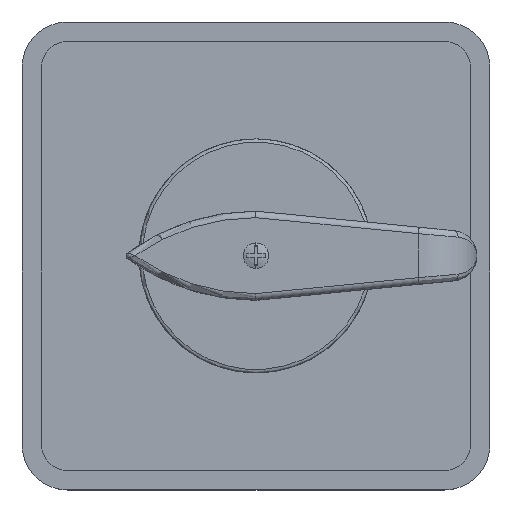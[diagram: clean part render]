
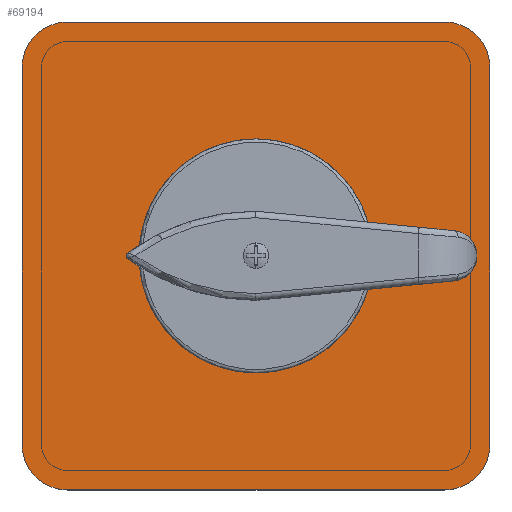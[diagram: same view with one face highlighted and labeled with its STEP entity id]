
A CAD part, top view. The second image highlights one B-rep face of the part: STEP entity #69194.
In plain terms, the highlighted planar face has unit normal (0, 0, 1).
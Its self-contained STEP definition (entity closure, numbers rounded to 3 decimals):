
#22122=CARTESIAN_POINT('',(29.,29.,3.35));
#22123=DIRECTION('',(0.,0.,1.));
#22124=DIRECTION('',(1.,0.,0.));
#22125=AXIS2_PLACEMENT_3D('',#22122,#22123,#22124);
#22127=DIRECTION('',(0.,1.,0.));
#22128=VECTOR('',#22127,58.);
#22129=CARTESIAN_POINT('',(36.,-29.,3.35));
#22130=LINE('',#22129,#22128);
#22131=CARTESIAN_POINT('',(29.,-29.,3.35));
#22132=DIRECTION('',(0.,0.,1.));
#22133=DIRECTION('',(0.,-1.,0.));
#22134=AXIS2_PLACEMENT_3D('',#22131,#22132,#22133);
#22136=DIRECTION('',(1.,0.,0.));
#22137=VECTOR('',#22136,58.);
#22138=CARTESIAN_POINT('',(-29.,-36.,3.35));
#22139=LINE('',#22138,#22137);
#22140=CARTESIAN_POINT('',(-29.,-29.,3.35));
#22141=DIRECTION('',(0.,0.,1.));
#22142=DIRECTION('',(-1.,0.,0.));
#22143=AXIS2_PLACEMENT_3D('',#22140,#22141,#22142);
#22145=DIRECTION('',(0.,-1.,0.));
#22146=VECTOR('',#22145,58.);
#22147=CARTESIAN_POINT('',(-36.,29.,3.35));
#22148=LINE('',#22147,#22146);
#22149=CARTESIAN_POINT('',(-29.,29.,3.35));
#22150=DIRECTION('',(0.,0.,1.));
#22151=DIRECTION('',(0.,1.,0.));
#22152=AXIS2_PLACEMENT_3D('',#22149,#22150,#22151);
#22154=DIRECTION('',(-1.,0.,0.));
#22155=VECTOR('',#22154,58.);
#22156=CARTESIAN_POINT('',(29.,36.,3.35));
#22157=LINE('',#22156,#22155);
#22158=DIRECTION('',(1.,0.,0.));
#22159=VECTOR('',#22158,8.);
#22160=CARTESIAN_POINT('',(-4.,4.,3.35));
#22161=LINE('',#22160,#22159);
#22170=DIRECTION('',(0.,-1.,0.));
#22171=VECTOR('',#22170,8.);
#22172=CARTESIAN_POINT('',(4.,4.,3.35));
#22173=LINE('',#22172,#22171);
#22182=DIRECTION('',(-1.,0.,0.));
#22183=VECTOR('',#22182,8.);
#22184=CARTESIAN_POINT('',(4.,-4.,3.35));
#22185=LINE('',#22184,#22183);
#22194=DIRECTION('',(0.,1.,0.));
#22195=VECTOR('',#22194,8.);
#22196=CARTESIAN_POINT('',(-4.,-4.,3.35));
#22197=LINE('',#22196,#22195);
#23045=CARTESIAN_POINT('',(0.,0.,3.35));
#23046=DIRECTION('',(0.,0.,1.));
#23047=DIRECTION('',(-0.947,0.322,0.));
#23048=AXIS2_PLACEMENT_3D('',#23045,#23046,#23047);
#23055=DIRECTION('',(-1.,0.,0.));
#23056=VECTOR('',#23055,1.727);
#23057=CARTESIAN_POINT('',(-8.52,-2.9,3.35));
#23058=LINE('',#23057,#23056);
#23080=CARTESIAN_POINT('',(0.,0.,3.35));
#23081=DIRECTION('',(0.,0.,1.));
#23082=DIRECTION('',(-0.962,0.272,0.));
#23083=AXIS2_PLACEMENT_3D('',#23080,#23081,#23082);
#23090=DIRECTION('',(1.,0.,0.));
#23091=VECTOR('',#23090,1.727);
#23092=CARTESIAN_POINT('',(-10.247,2.9,3.35));
#23093=LINE('',#23092,#23091);
#23115=CARTESIAN_POINT('',(0.,0.,3.35));
#23116=DIRECTION('',(0.,0.,1.));
#23117=DIRECTION('',(0.322,0.947,0.));
#23118=AXIS2_PLACEMENT_3D('',#23115,#23116,#23117);
#23125=DIRECTION('',(0.,1.,0.));
#23126=VECTOR('',#23125,1.727);
#23127=CARTESIAN_POINT('',(-2.9,8.52,3.35));
#23128=LINE('',#23127,#23126);
#23150=CARTESIAN_POINT('',(0.,0.,3.35));
#23151=DIRECTION('',(0.,0.,1.));
#23152=DIRECTION('',(0.272,0.962,0.));
#23153=AXIS2_PLACEMENT_3D('',#23150,#23151,#23152);
#23160=DIRECTION('',(0.,-1.,0.));
#23161=VECTOR('',#23160,1.727);
#23162=CARTESIAN_POINT('',(2.9,10.247,3.35));
#23163=LINE('',#23162,#23161);
#23185=CARTESIAN_POINT('',(0.,0.,3.35));
#23186=DIRECTION('',(0.,0.,1.));
#23187=DIRECTION('',(0.947,-0.322,0.));
#23188=AXIS2_PLACEMENT_3D('',#23185,#23186,#23187);
#23199=DIRECTION('',(1.,0.,0.));
#23200=VECTOR('',#23199,1.727);
#23201=CARTESIAN_POINT('',(8.52,2.9,3.35));
#23202=LINE('',#23201,#23200);
#23220=CARTESIAN_POINT('',(0.,0.,3.35));
#23221=DIRECTION('',(0.,0.,1.));
#23222=DIRECTION('',(0.962,-0.272,0.));
#23223=AXIS2_PLACEMENT_3D('',#23220,#23221,#23222);
#23230=DIRECTION('',(-1.,0.,0.));
#23231=VECTOR('',#23230,1.727);
#23232=CARTESIAN_POINT('',(10.247,-2.9,3.35));
#23233=LINE('',#23232,#23231);
#23255=CARTESIAN_POINT('',(0.,0.,3.35));
#23256=DIRECTION('',(0.,0.,1.));
#23257=DIRECTION('',(-0.322,-0.947,0.));
#23258=AXIS2_PLACEMENT_3D('',#23255,#23256,#23257);
#23265=DIRECTION('',(0.,-1.,0.));
#23266=VECTOR('',#23265,1.727);
#23267=CARTESIAN_POINT('',(2.9,-8.52,3.35));
#23268=LINE('',#23267,#23266);
#23290=CARTESIAN_POINT('',(0.,0.,3.35));
#23291=DIRECTION('',(0.,0.,1.));
#23292=DIRECTION('',(-0.272,-0.962,0.));
#23293=AXIS2_PLACEMENT_3D('',#23290,#23291,#23292);
#23300=DIRECTION('',(0.,1.,0.));
#23301=VECTOR('',#23300,1.727);
#23302=CARTESIAN_POINT('',(-2.9,-10.247,3.35));
#23303=LINE('',#23302,#23301);
#32483=CARTESIAN_POINT('',(36.,29.,3.35));
#32484=VERTEX_POINT('',#32483);
#32485=CARTESIAN_POINT('',(29.,36.,3.35));
#32486=VERTEX_POINT('',#32485);
#32491=CARTESIAN_POINT('',(29.,-36.,3.35));
#32492=VERTEX_POINT('',#32491);
#32493=CARTESIAN_POINT('',(36.,-29.,3.35));
#32494=VERTEX_POINT('',#32493);
#32499=CARTESIAN_POINT('',(-36.,-29.,3.35));
#32500=VERTEX_POINT('',#32499);
#32501=CARTESIAN_POINT('',(-29.,-36.,3.35));
#32502=VERTEX_POINT('',#32501);
#32507=CARTESIAN_POINT('',(-29.,36.,3.35));
#32508=VERTEX_POINT('',#32507);
#32509=CARTESIAN_POINT('',(-36.,29.,3.35));
#32510=VERTEX_POINT('',#32509);
#41039=CARTESIAN_POINT('',(-2.9,-8.52,3.35));
#41040=CARTESIAN_POINT('',(2.9,-8.52,3.35));
#41041=VERTEX_POINT('',#41039);
#41042=VERTEX_POINT('',#41040);
#41043=CARTESIAN_POINT('',(8.52,-2.9,3.35));
#41044=CARTESIAN_POINT('',(8.52,2.9,3.35));
#41045=VERTEX_POINT('',#41043);
#41046=VERTEX_POINT('',#41044);
#41047=CARTESIAN_POINT('',(2.9,8.52,3.35));
#41048=CARTESIAN_POINT('',(-2.9,8.52,3.35));
#41049=VERTEX_POINT('',#41047);
#41050=VERTEX_POINT('',#41048);
#41051=CARTESIAN_POINT('',(-8.52,2.9,3.35));
#41052=CARTESIAN_POINT('',(-8.52,-2.9,3.35));
#41053=VERTEX_POINT('',#41051);
#41054=VERTEX_POINT('',#41052);
#41071=CARTESIAN_POINT('',(10.247,-2.9,3.35));
#41072=VERTEX_POINT('',#41071);
#41075=CARTESIAN_POINT('',(10.247,2.9,3.35));
#41076=VERTEX_POINT('',#41075);
#41079=CARTESIAN_POINT('',(2.9,10.247,3.35));
#41080=VERTEX_POINT('',#41079);
#41083=CARTESIAN_POINT('',(-2.9,10.247,3.35));
#41084=VERTEX_POINT('',#41083);
#41087=CARTESIAN_POINT('',(-10.247,2.9,3.35));
#41088=VERTEX_POINT('',#41087);
#41091=CARTESIAN_POINT('',(-10.247,-2.9,3.35));
#41092=VERTEX_POINT('',#41091);
#41095=CARTESIAN_POINT('',(-2.9,-10.247,3.35));
#41096=VERTEX_POINT('',#41095);
#41099=CARTESIAN_POINT('',(2.9,-10.247,3.35));
#41100=VERTEX_POINT('',#41099);
#41103=CARTESIAN_POINT('',(-4.,4.,3.35));
#41104=CARTESIAN_POINT('',(4.,4.,3.35));
#41105=VERTEX_POINT('',#41103);
#41106=VERTEX_POINT('',#41104);
#41111=CARTESIAN_POINT('',(4.,-4.,3.35));
#41112=VERTEX_POINT('',#41111);
#41115=CARTESIAN_POINT('',(-4.,-4.,3.35));
#41116=VERTEX_POINT('',#41115);
#69129=CARTESIAN_POINT('',(0.,0.,3.35));
#69130=DIRECTION('',(0.,0.,1.));
#69131=DIRECTION('',(1.,0.,0.));
#69132=AXIS2_PLACEMENT_3D('',#69129,#69130,#69131);
#69133=PLANE('',#69132);
#69134=ORIENTED_EDGE('',*,*,#69025,.F.);
#69135=ORIENTED_EDGE('',*,*,#69041,.F.);
#69136=ORIENTED_EDGE('',*,*,#69054,.F.);
#69137=ORIENTED_EDGE('',*,*,#69069,.F.);
#69138=ORIENTED_EDGE('',*,*,#69082,.F.);
#69139=ORIENTED_EDGE('',*,*,#69097,.F.);
#69140=ORIENTED_EDGE('',*,*,#69110,.F.);
#69141=ORIENTED_EDGE('',*,*,#69122,.F.);
#69142=EDGE_LOOP('',(#69134,#69135,#69136,#69137,#69138,#69139,#69140,#69141));
#69143=FACE_OUTER_BOUND('',#69142,.F.);
#69145=ORIENTED_EDGE('',*,*,#69144,.F.);
#69147=ORIENTED_EDGE('',*,*,#69146,.F.);
#69149=ORIENTED_EDGE('',*,*,#69148,.F.);
#69151=ORIENTED_EDGE('',*,*,#69150,.F.);
#69152=EDGE_LOOP('',(#69145,#69147,#69149,#69151));
#69153=FACE_BOUND('',#69152,.F.);
#69155=ORIENTED_EDGE('',*,*,#69154,.F.);
#69157=ORIENTED_EDGE('',*,*,#69156,.F.);
#69159=ORIENTED_EDGE('',*,*,#69158,.T.);
#69161=ORIENTED_EDGE('',*,*,#69160,.F.);
#69162=EDGE_LOOP('',(#69155,#69157,#69159,#69161));
#69163=FACE_BOUND('',#69162,.F.);
#69165=ORIENTED_EDGE('',*,*,#69164,.F.);
#69167=ORIENTED_EDGE('',*,*,#69166,.F.);
#69169=ORIENTED_EDGE('',*,*,#69168,.T.);
#69171=ORIENTED_EDGE('',*,*,#69170,.F.);
#69172=EDGE_LOOP('',(#69165,#69167,#69169,#69171));
#69173=FACE_BOUND('',#69172,.F.);
#69175=ORIENTED_EDGE('',*,*,#69174,.F.);
#69177=ORIENTED_EDGE('',*,*,#69176,.F.);
#69179=ORIENTED_EDGE('',*,*,#69178,.T.);
#69181=ORIENTED_EDGE('',*,*,#69180,.F.);
#69182=EDGE_LOOP('',(#69175,#69177,#69179,#69181));
#69183=FACE_BOUND('',#69182,.F.);
#69185=ORIENTED_EDGE('',*,*,#69184,.F.);
#69187=ORIENTED_EDGE('',*,*,#69186,.F.);
#69189=ORIENTED_EDGE('',*,*,#69188,.T.);
#69191=ORIENTED_EDGE('',*,*,#69190,.F.);
#69192=EDGE_LOOP('',(#69185,#69187,#69189,#69191));
#69193=FACE_BOUND('',#69192,.F.);
#69194=ADVANCED_FACE('',(#69143,#69153,#69163,#69173,#69183,#69193),#69133,.T.);
#22126=CIRCLE('',#22125,7.);
#22135=CIRCLE('',#22134,7.);
#22144=CIRCLE('',#22143,7.);
#22153=CIRCLE('',#22152,7.);
#23049=CIRCLE('',#23048,9.);
#23084=CIRCLE('',#23083,10.65);
#23119=CIRCLE('',#23118,9.);
#23154=CIRCLE('',#23153,10.65);
#23189=CIRCLE('',#23188,9.);
#23224=CIRCLE('',#23223,10.65);
#23259=CIRCLE('',#23258,9.);
#23294=CIRCLE('',#23293,10.65);
#69025=EDGE_CURVE('',#32484,#32486,#22126,.T.);
#69041=EDGE_CURVE('',#32494,#32484,#22130,.T.);
#69054=EDGE_CURVE('',#32492,#32494,#22135,.T.);
#69069=EDGE_CURVE('',#32502,#32492,#22139,.T.);
#69082=EDGE_CURVE('',#32500,#32502,#22144,.T.);
#69097=EDGE_CURVE('',#32510,#32500,#22148,.T.);
#69110=EDGE_CURVE('',#32508,#32510,#22153,.T.);
#69122=EDGE_CURVE('',#32486,#32508,#22157,.T.);
#69144=EDGE_CURVE('',#41105,#41106,#22161,.T.);
#69146=EDGE_CURVE('',#41116,#41105,#22197,.T.);
#69148=EDGE_CURVE('',#41112,#41116,#22185,.T.);
#69150=EDGE_CURVE('',#41106,#41112,#22173,.T.);
#69154=EDGE_CURVE('',#41053,#41054,#23049,.T.);
#69156=EDGE_CURVE('',#41088,#41053,#23093,.T.);
#69158=EDGE_CURVE('',#41088,#41092,#23084,.T.);
#69160=EDGE_CURVE('',#41054,#41092,#23058,.T.);
#69164=EDGE_CURVE('',#41049,#41050,#23119,.T.);
#69166=EDGE_CURVE('',#41080,#41049,#23163,.T.);
#69168=EDGE_CURVE('',#41080,#41084,#23154,.T.);
#69170=EDGE_CURVE('',#41050,#41084,#23128,.T.);
#69174=EDGE_CURVE('',#41045,#41046,#23189,.T.);
#69176=EDGE_CURVE('',#41072,#41045,#23233,.T.);
#69178=EDGE_CURVE('',#41072,#41076,#23224,.T.);
#69180=EDGE_CURVE('',#41046,#41076,#23202,.T.);
#69184=EDGE_CURVE('',#41041,#41042,#23259,.T.);
#69186=EDGE_CURVE('',#41096,#41041,#23303,.T.);
#69188=EDGE_CURVE('',#41096,#41100,#23294,.T.);
#69190=EDGE_CURVE('',#41042,#41100,#23268,.T.);
